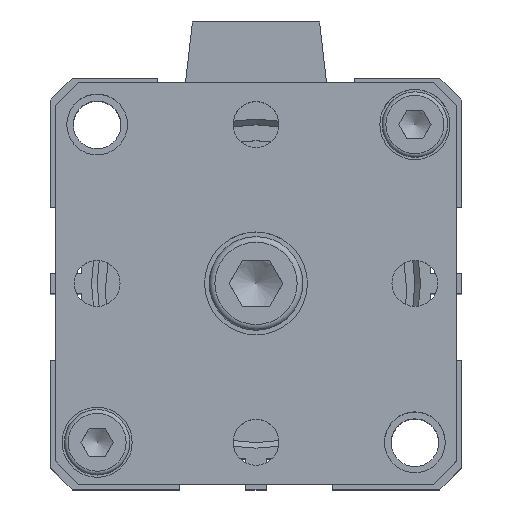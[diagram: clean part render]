
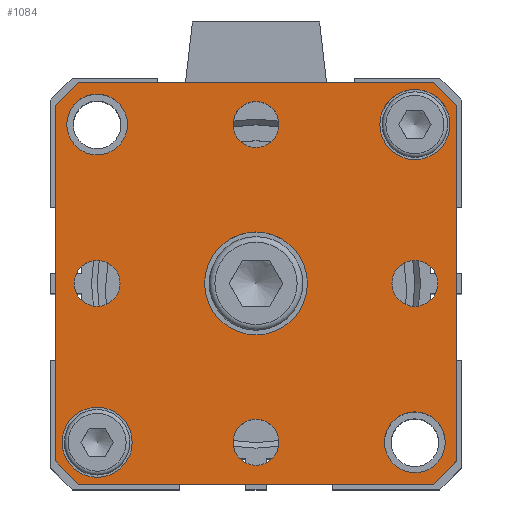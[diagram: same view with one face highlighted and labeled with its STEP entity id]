
A CAD part, top view. The second image highlights one B-rep face of the part: STEP entity #1084.
In plain terms, the highlighted planar face has unit normal (0, 0, 1).
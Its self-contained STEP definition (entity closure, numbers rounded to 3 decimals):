
#290=CARTESIAN_POINT('',(-16.976,-17.12,61.5));
#291=VERTEX_POINT('',#290);
#292=CARTESIAN_POINT('',(-20.726,-17.12,61.5));
#293=DIRECTION('',(0.0,0.0,-1.0));
#294=DIRECTION('',(1.0,0.0,0.0));
#295=AXIS2_PLACEMENT_3D('',#292,#293,#294);
#296=CIRCLE('',#295,3.75);
#297=EDGE_CURVE('',#291,#291,#296,.T.);
#392=CARTESIAN_POINT('',(17.024,16.88,61.5));
#393=VERTEX_POINT('',#392);
#394=CARTESIAN_POINT('',(13.274,16.88,61.5));
#395=DIRECTION('',(0.0,0.0,-1.0));
#396=DIRECTION('',(1.0,0.0,0.0));
#397=AXIS2_PLACEMENT_3D('',#394,#395,#396);
#398=CIRCLE('',#397,3.75);
#399=EDGE_CURVE('',#393,#393,#398,.T.);
#477=CARTESIAN_POINT('',(15.733,-0.12,61.5));
#478=VERTEX_POINT('',#477);
#479=CARTESIAN_POINT('',(13.274,-0.12,61.5));
#480=DIRECTION('',(0.0,0.0,-1.0));
#481=DIRECTION('',(1.0,0.0,0.0));
#482=AXIS2_PLACEMENT_3D('',#479,#480,#481);
#483=CIRCLE('',#482,2.459);
#484=EDGE_CURVE('',#478,#478,#483,.T.);
#526=CARTESIAN_POINT('',(-1.267,-17.12,61.5));
#527=VERTEX_POINT('',#526);
#528=CARTESIAN_POINT('',(-3.726,-17.12,61.5));
#529=DIRECTION('',(0.0,0.0,-1.0));
#530=DIRECTION('',(1.0,0.0,0.0));
#531=AXIS2_PLACEMENT_3D('',#528,#529,#530);
#532=CIRCLE('',#531,2.459);
#533=EDGE_CURVE('',#527,#527,#532,.T.);
#575=CARTESIAN_POINT('',(-18.267,-0.12,61.5));
#576=VERTEX_POINT('',#575);
#577=CARTESIAN_POINT('',(-20.726,-0.12,61.5));
#578=DIRECTION('',(0.0,0.0,-1.0));
#579=DIRECTION('',(1.0,0.0,0.0));
#580=AXIS2_PLACEMENT_3D('',#577,#578,#579);
#581=CIRCLE('',#580,2.459);
#582=EDGE_CURVE('',#576,#576,#581,.T.);
#624=CARTESIAN_POINT('',(-1.267,16.88,61.5));
#625=VERTEX_POINT('',#624);
#626=CARTESIAN_POINT('',(-3.726,16.88,61.5));
#627=DIRECTION('',(0.0,0.0,-1.0));
#628=DIRECTION('',(1.0,0.0,0.0));
#629=AXIS2_PLACEMENT_3D('',#626,#627,#628);
#630=CIRCLE('',#629,2.459);
#631=EDGE_CURVE('',#625,#625,#630,.T.);
#690=CARTESIAN_POINT('',(1.774,-0.12,61.5));
#691=VERTEX_POINT('',#690);
#692=CARTESIAN_POINT('',(-3.726,-0.12,61.5));
#693=DIRECTION('',(0.0,0.0,-1.0));
#694=DIRECTION('',(1.0,0.0,0.0));
#695=AXIS2_PLACEMENT_3D('',#692,#693,#694);
#696=CIRCLE('',#695,5.5);
#697=EDGE_CURVE('',#691,#691,#696,.T.);
#743=CARTESIAN_POINT('',(16.524,-17.12,61.5));
#744=VERTEX_POINT('',#743);
#745=CARTESIAN_POINT('',(13.274,-17.12,61.5));
#746=DIRECTION('',(0.0,0.0,-1.0));
#747=DIRECTION('',(-1.0,0.0,0.0));
#748=AXIS2_PLACEMENT_3D('',#745,#746,#747);
#749=CIRCLE('',#748,3.25);
#750=EDGE_CURVE('',#744,#744,#749,.T.);
#771=CARTESIAN_POINT('',(-17.476,16.88,61.5));
#772=VERTEX_POINT('',#771);
#773=CARTESIAN_POINT('',(-20.726,16.88,61.5));
#774=DIRECTION('',(0.0,0.0,-1.0));
#775=DIRECTION('',(-1.0,0.0,0.0));
#776=AXIS2_PLACEMENT_3D('',#773,#774,#775);
#777=CIRCLE('',#776,3.25);
#778=EDGE_CURVE('',#772,#772,#777,.T.);
#799=CARTESIAN_POINT('',(-22.726,21.38,61.5));
#800=VERTEX_POINT('',#799);
#801=CARTESIAN_POINT('',(15.274,21.38,61.5));
#802=VERTEX_POINT('',#801);
#803=CARTESIAN_POINT('',(-22.726,21.38,61.5));
#804=DIRECTION('',(1.0,0.0,0.0));
#805=VECTOR('',#804,38.);
#806=LINE('',#803,#805);
#807=EDGE_CURVE('',#800,#802,#806,.T.);
#839=CARTESIAN_POINT('',(17.774,18.88,61.5));
#840=VERTEX_POINT('',#839);
#841=CARTESIAN_POINT('',(15.274,21.38,61.5));
#842=DIRECTION('',(0.707,-0.707,0.0));
#843=VECTOR('',#842,3.536);
#844=LINE('',#841,#843);
#845=EDGE_CURVE('',#802,#840,#844,.T.);
#870=CARTESIAN_POINT('',(17.774,-19.12,61.5));
#871=VERTEX_POINT('',#870);
#872=CARTESIAN_POINT('',(17.774,18.88,61.5));
#873=DIRECTION('',(0.0,-1.0,0.0));
#874=VECTOR('',#873,38.);
#875=LINE('',#872,#874);
#876=EDGE_CURVE('',#840,#871,#875,.T.);
#901=CARTESIAN_POINT('',(15.274,-21.62,61.5));
#902=VERTEX_POINT('',#901);
#903=CARTESIAN_POINT('',(17.774,-19.12,61.5));
#904=DIRECTION('',(-0.707,-0.707,0.0));
#905=VECTOR('',#904,3.536);
#906=LINE('',#903,#905);
#907=EDGE_CURVE('',#871,#902,#906,.T.);
#932=CARTESIAN_POINT('',(-22.726,-21.62,61.5));
#933=VERTEX_POINT('',#932);
#934=CARTESIAN_POINT('',(15.274,-21.62,61.5));
#935=DIRECTION('',(-1.0,0.0,0.0));
#936=VECTOR('',#935,38.);
#937=LINE('',#934,#936);
#938=EDGE_CURVE('',#902,#933,#937,.T.);
#963=CARTESIAN_POINT('',(-25.226,-19.12,61.5));
#964=VERTEX_POINT('',#963);
#965=CARTESIAN_POINT('',(-22.726,-21.62,61.5));
#966=DIRECTION('',(-0.707,0.707,0.0));
#967=VECTOR('',#966,3.536);
#968=LINE('',#965,#967);
#969=EDGE_CURVE('',#933,#964,#968,.T.);
#994=CARTESIAN_POINT('',(-25.226,18.88,61.5));
#995=VERTEX_POINT('',#994);
#996=CARTESIAN_POINT('',(-25.226,-19.12,61.5));
#997=DIRECTION('',(0.0,1.0,0.0));
#998=VECTOR('',#997,38.);
#999=LINE('',#996,#998);
#1000=EDGE_CURVE('',#964,#995,#999,.T.);
#1025=CARTESIAN_POINT('',(-25.226,18.88,61.5));
#1026=DIRECTION('',(0.707,0.707,0.0));
#1027=VECTOR('',#1026,3.536);
#1028=LINE('',#1025,#1027);
#1029=EDGE_CURVE('',#995,#800,#1028,.T.);
#1042=CARTESIAN_POINT('',(-3.726,-0.12,61.5));
#1043=DIRECTION('',(0.0,0.0,1.0));
#1044=DIRECTION('',(1.0,0.0,0.0));
#1045=AXIS2_PLACEMENT_3D('',#1042,#1043,#1044);
#1046=PLANE('',#1045);
#1047=ORIENTED_EDGE('',*,*,#807,.F.);
#1048=ORIENTED_EDGE('',*,*,#1029,.F.);
#1049=ORIENTED_EDGE('',*,*,#1000,.F.);
#1050=ORIENTED_EDGE('',*,*,#969,.F.);
#1051=ORIENTED_EDGE('',*,*,#938,.F.);
#1052=ORIENTED_EDGE('',*,*,#907,.F.);
#1053=ORIENTED_EDGE('',*,*,#876,.F.);
#1054=ORIENTED_EDGE('',*,*,#845,.F.);
#1055=EDGE_LOOP('',(#1047,#1048,#1049,#1050,#1051,#1052,#1053,#1054));
#1056=FACE_OUTER_BOUND('',#1055,.T.);
#1057=ORIENTED_EDGE('',*,*,#297,.T.);
#1058=EDGE_LOOP('',(#1057));
#1059=FACE_BOUND('',#1058,.T.);
#1060=ORIENTED_EDGE('',*,*,#399,.T.);
#1061=EDGE_LOOP('',(#1060));
#1062=FACE_BOUND('',#1061,.T.);
#1063=ORIENTED_EDGE('',*,*,#484,.T.);
#1064=EDGE_LOOP('',(#1063));
#1065=FACE_BOUND('',#1064,.T.);
#1066=ORIENTED_EDGE('',*,*,#533,.T.);
#1067=EDGE_LOOP('',(#1066));
#1068=FACE_BOUND('',#1067,.T.);
#1069=ORIENTED_EDGE('',*,*,#582,.T.);
#1070=EDGE_LOOP('',(#1069));
#1071=FACE_BOUND('',#1070,.T.);
#1072=ORIENTED_EDGE('',*,*,#631,.T.);
#1073=EDGE_LOOP('',(#1072));
#1074=FACE_BOUND('',#1073,.T.);
#1075=ORIENTED_EDGE('',*,*,#697,.T.);
#1076=EDGE_LOOP('',(#1075));
#1077=FACE_BOUND('',#1076,.T.);
#1078=ORIENTED_EDGE('',*,*,#750,.T.);
#1079=EDGE_LOOP('',(#1078));
#1080=FACE_BOUND('',#1079,.T.);
#1081=ORIENTED_EDGE('',*,*,#778,.T.);
#1082=EDGE_LOOP('',(#1081));
#1083=FACE_BOUND('',#1082,.T.);
#1084=ADVANCED_FACE('',(#1056,#1059,#1062,#1065,#1068,#1071,#1074,#1077,#1080,#1083),#1046,.T.);
